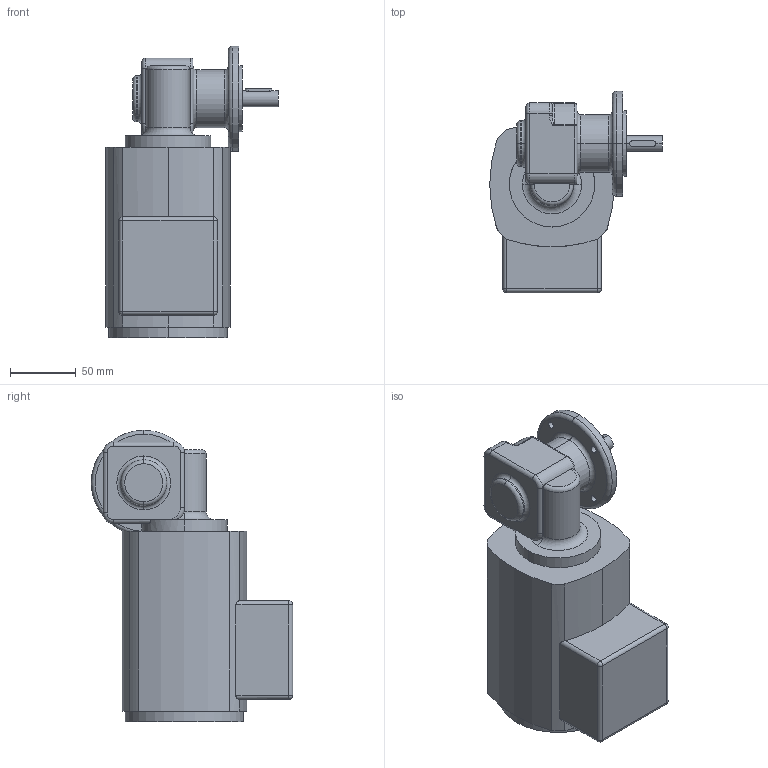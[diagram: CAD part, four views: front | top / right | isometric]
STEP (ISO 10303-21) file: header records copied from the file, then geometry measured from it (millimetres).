
FILE_DESCRIPTION (( 'STEP AP203' ), '1' );
FILE_NAME ('SN5FRUG-90W-C.STEP', '2013-09-16T13:07:38', ( '' ), ( '' ), 'SwSTEP 2.0', 'SolidWorks 2011', '' );
FILE_SCHEMA (( 'CONFIG_CONTROL_DESIGN' ));
Length unit declared in the file: millimetre
Products named in the file (3): SN5FRUG-90W-C; 90W-UG-Mot-of; SN5FR
Assembly tree (2 placements, depth 2):
  SN5FRUG-90W-C
    90W-UG-Mot-of
    SN5FR
Bounding box: 131.5 x 153.5 x 222 mm (x, y, z)
Volume: 1637039.7 mm3; surface area: 110645 mm2
Topology: 2 solids, 2 shells, 138 faces, 326 edges, 192 vertices
Faces by surface type: cylinder 70, plane 28, torus 28, sphere 8, bspline 4
Entity records: 4810 total; most frequent: CARTESIAN_POINT 1295, DIRECTION 743, ORIENTED_EDGE 640, EDGE_CURVE 320, AXIS2_PLACEMENT_3D 316, VERTEX_POINT 192, CIRCLE 177, EDGE_LOOP 152
